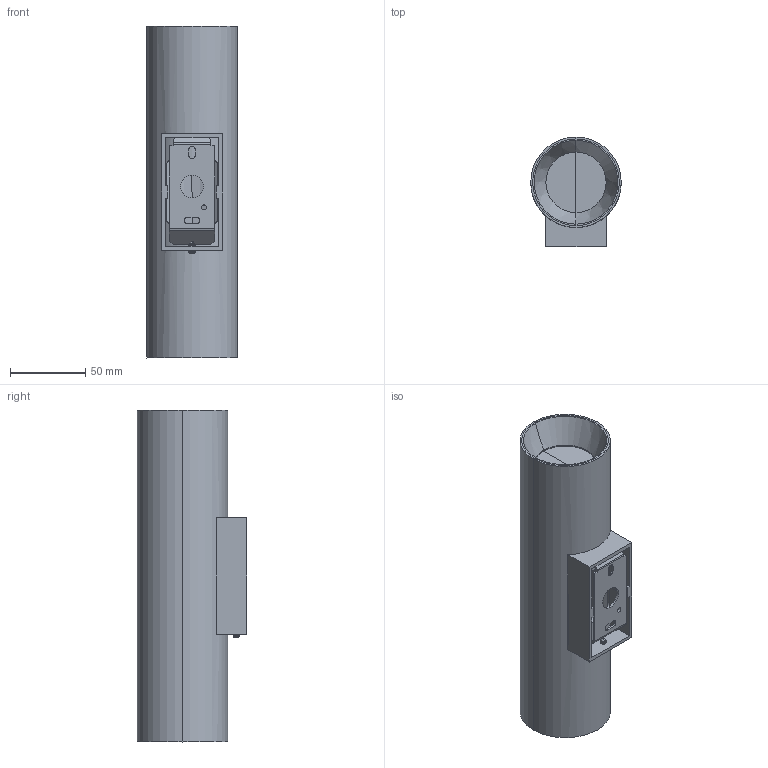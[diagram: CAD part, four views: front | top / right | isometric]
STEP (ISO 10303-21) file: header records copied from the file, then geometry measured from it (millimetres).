
FILE_DESCRIPTION(/* description */ (''),/* implementation_level */ '2;1');
FILE_NAME(/* name */ '43766.step',/* time_stamp */ '2024-04-08T09:26:14+02:00',/* author */ ('RenataManzini'),/* organization */ (''),/* preprocessor_version */ 'ST-DEVELOPER v20',/* originating_system */ 'AutoCAD Mechanical',/* authorisation */ '');
FILE_SCHEMA (('AUTOMOTIVE_DESIGN { 1 0 10303 214 3 1 1 }'));
Length unit declared in the file: millimetre
Products named in the file (2): Product; 43750_43751_STAN - STAN-364656-_3D_
Assembly tree (1 placements, depth 2):
  Product
    43750_43751_STAN - STAN-364656-_3D_
Bounding box: 60 x 72.63 x 220 mm (x, y, z)
Volume: 92469.8 mm3; surface area: 113855 mm2
Topology: 7 solids, 9 shells, 162 faces, 514 edges, 347 vertices
Faces by surface type: plane 86, cylinder 57, bspline 14, cone 3, torus 2
Entity records: 9011 total; most frequent: CARTESIAN_POINT 4471, ORIENTED_EDGE 946, DIRECTION 892, EDGE_CURVE 514, VERTEX_POINT 347, AXIS2_PLACEMENT_3D 322, LINE 248, VECTOR 248
